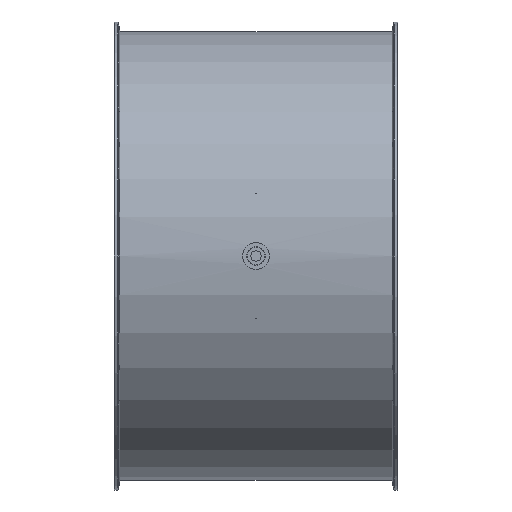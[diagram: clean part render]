
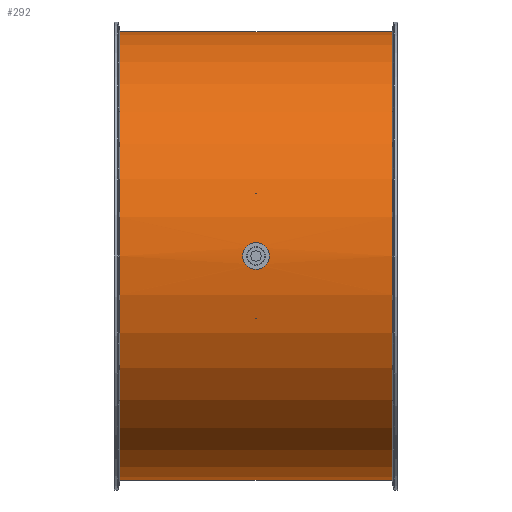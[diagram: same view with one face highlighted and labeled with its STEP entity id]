
A CAD part, front view. The second image highlights one B-rep face of the part: STEP entity #292.
In plain terms, the highlighted cylindrical face has radius 316 mm (diameter 632 mm), a full revolution.
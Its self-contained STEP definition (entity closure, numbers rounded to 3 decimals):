
#227=B_SPLINE_CURVE_WITH_KNOTS('',3,(#1730,#1731,#1732,#1733,#1734,#1735,
#1736,#1737,#1738,#1739,#1740,#1741,#1742,#1743,#1744,#1745,#1746,#1747),
 .UNSPECIFIED.,.T.,.F.,(2,2,2,2,2,2,2,2,2,2,2),(-0.125,0.,0.125,0.25,0.375,
0.5,0.625,0.75,0.875,1.,1.125),.UNSPECIFIED.);
#228=B_SPLINE_CURVE_WITH_KNOTS('',3,(#1749,#1750,#1751,#1752,#1753,#1754,
#1755,#1756,#1757,#1758,#1759,#1760,#1761,#1762,#1763,#1764,#1765,#1766),
 .UNSPECIFIED.,.T.,.F.,(2,2,2,2,2,2,2,2,2,2,2),(-0.125,0.,0.125,0.25,0.375,
0.5,0.625,0.75,0.875,1.,1.125),.UNSPECIFIED.);
#252=CYLINDRICAL_SURFACE('',#1216,316.);
#292=ADVANCED_FACE('',(#415,#416,#417,#418),#252,.T.);
#415=FACE_BOUND('',#529,.T.);
#416=FACE_BOUND('',#530,.T.);
#417=FACE_BOUND('',#531,.T.);
#418=FACE_BOUND('',#532,.T.);
#529=EDGE_LOOP('',(#673));
#530=EDGE_LOOP('',(#674));
#531=EDGE_LOOP('',(#675));
#532=EDGE_LOOP('',(#676));
#673=ORIENTED_EDGE('',*,*,#1008,.F.);
#674=ORIENTED_EDGE('',*,*,#1010,.F.);
#675=ORIENTED_EDGE('',*,*,#1011,.F.);
#676=ORIENTED_EDGE('',*,*,#1012,.F.);
#912=VERTEX_POINT('',#1723);
#914=VERTEX_POINT('',#1728);
#915=VERTEX_POINT('',#1748);
#916=VERTEX_POINT('',#1767);
#1008=EDGE_CURVE('',#912,#912,#1132,.T.);
#1010=EDGE_CURVE('',#914,#914,#1134,.T.);
#1011=EDGE_CURVE('',#915,#915,#227,.T.);
#1012=EDGE_CURVE('',#916,#916,#228,.T.);
#1132=CIRCLE('',#1211,316.);
#1134=CIRCLE('',#1214,316.);
#1211=AXIS2_PLACEMENT_3D('',#1722,#1377,#1378);
#1214=AXIS2_PLACEMENT_3D('',#1727,#1383,#1384);
#1216=AXIS2_PLACEMENT_3D('',#1768,#1387,#1388);
#1377=DIRECTION('',(1.,0.,0.));
#1378=DIRECTION('',(0.,0.,-1.));
#1383=DIRECTION('',(-1.,0.,0.));
#1384=DIRECTION('',(0.,0.,1.));
#1387=DIRECTION('',(1.,0.,0.));
#1388=DIRECTION('',(0.,0.,-1.));
#1722=CARTESIAN_POINT('',(192.133,-109.,125.));
#1723=CARTESIAN_POINT('',(192.133,-109.,-191.));
#1727=CARTESIAN_POINT('',(-192.133,-109.,125.));
#1728=CARTESIAN_POINT('',(-192.133,-109.,441.));
#1730=CARTESIAN_POINT('',(3.436,206.732,112.));
#1731=CARTESIAN_POINT('',(-3.436,206.732,112.));
#1732=CARTESIAN_POINT('',(-6.795,206.796,113.41));
#1733=CARTESIAN_POINT('',(-11.591,206.936,118.207));
#1734=CARTESIAN_POINT('',(-12.998,207.,121.601));
#1735=CARTESIAN_POINT('',(-13.002,207.,128.385));
#1736=CARTESIAN_POINT('',(-11.623,206.937,131.76));
#1737=CARTESIAN_POINT('',(-6.771,206.796,136.616));
#1738=CARTESIAN_POINT('',(-3.398,206.733,137.999));
#1739=CARTESIAN_POINT('',(3.389,206.732,138.001));
#1740=CARTESIAN_POINT('',(6.784,206.796,136.596));
#1741=CARTESIAN_POINT('',(11.583,206.936,131.806));
#1742=CARTESIAN_POINT('',(12.997,207.,128.443));
#1743=CARTESIAN_POINT('',(13.003,207.,121.583));
#1744=CARTESIAN_POINT('',(11.598,206.936,118.217));
#1745=CARTESIAN_POINT('',(6.802,206.797,113.413));
#1746=CARTESIAN_POINT('',(3.436,206.732,112.));
#1747=CARTESIAN_POINT('',(-3.436,206.732,112.));
#1748=CARTESIAN_POINT('',(0.,206.732,112.));
#1749=CARTESIAN_POINT('',(-3.436,-424.732,112.));
#1750=CARTESIAN_POINT('',(3.436,-424.732,112.));
#1751=CARTESIAN_POINT('',(6.795,-424.796,113.41));
#1752=CARTESIAN_POINT('',(11.591,-424.936,118.207));
#1753=CARTESIAN_POINT('',(12.998,-425.,121.601));
#1754=CARTESIAN_POINT('',(13.002,-425.,128.385));
#1755=CARTESIAN_POINT('',(11.623,-424.937,131.76));
#1756=CARTESIAN_POINT('',(6.771,-424.796,136.616));
#1757=CARTESIAN_POINT('',(3.398,-424.733,137.999));
#1758=CARTESIAN_POINT('',(-3.389,-424.732,138.001));
#1759=CARTESIAN_POINT('',(-6.784,-424.796,136.596));
#1760=CARTESIAN_POINT('',(-11.583,-424.936,131.806));
#1761=CARTESIAN_POINT('',(-12.997,-425.,128.443));
#1762=CARTESIAN_POINT('',(-13.003,-425.,121.583));
#1763=CARTESIAN_POINT('',(-11.598,-424.936,118.217));
#1764=CARTESIAN_POINT('',(-6.802,-424.797,113.413));
#1765=CARTESIAN_POINT('',(-3.436,-424.732,112.));
#1766=CARTESIAN_POINT('',(3.436,-424.732,112.));
#1767=CARTESIAN_POINT('',(0.,-424.732,112.));
#1768=CARTESIAN_POINT('',(-200.,-109.,125.));
